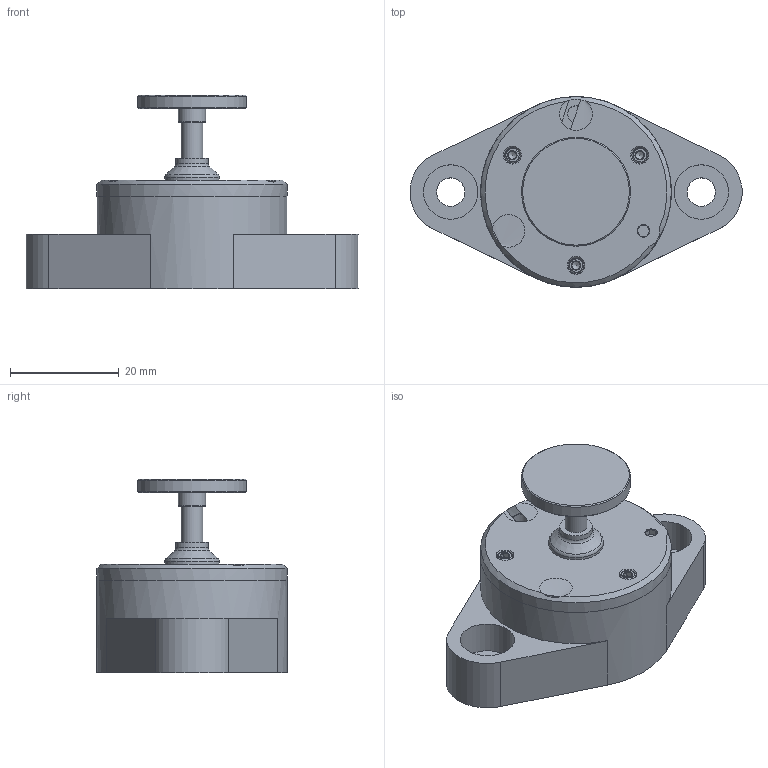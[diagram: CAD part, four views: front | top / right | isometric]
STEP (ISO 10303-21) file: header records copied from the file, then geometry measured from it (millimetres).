
FILE_DESCRIPTION(/* description */ (''),/* implementation_level */ '2;1');
FILE_NAME(/* name */ 'DIG3D.Fix.plastic.step',/* time_stamp */ '2025-08-14T18:43:43+02:00',/* author */ (''),/* organization */ (''),/* preprocessor_version */ 'ST-DEVELOPER v20.1',/* originating_system */ 'Autodesk Translation Framework v14.10.0.0',/* authorisation */ '');
FILE_SCHEMA (('AUTOMOTIVE_DESIGN { 1 0 10303 214 3 1 1 }'));
Length unit declared in the file: millimetre
Products named in the file (2): DIG3D.Fix - solid; Component8
Assembly tree (1 placements, depth 2):
  DIG3D.Fix - solid
    Component8
Bounding box: 60.94 x 35 x 35.6 mm (x, y, z)
Volume: 23531.7 mm3; surface area: 7686.7 mm2
Topology: 1 solids, 7 shells, 239 faces, 561 edges, 347 vertices
Faces by surface type: cylinder 103, plane 79, cone 46, bspline 8, torus 3
Full cylindrical faces by diameter (mm): 2.075 x1, 2.35 x33, 2.5 x15, 3 x20, 4 x5, 5 x1, 5.2 x2, 6 x1, 7.4 x1, 10 x4, 20 x1, 35 x2
Entity records: 12646 total; most frequent: CARTESIAN_POINT 7537, ORIENTED_EDGE 1116, DIRECTION 974, EDGE_CURVE 558, AXIS2_PLACEMENT_3D 391, VERTEX_POINT 347, EDGE_LOOP 259, FACE_OUTER_BOUND 239
